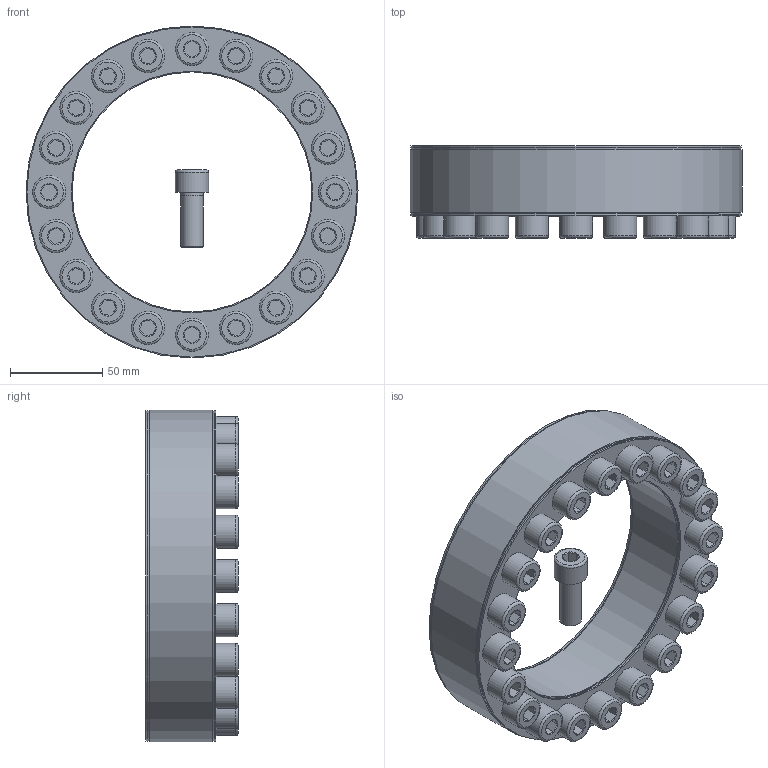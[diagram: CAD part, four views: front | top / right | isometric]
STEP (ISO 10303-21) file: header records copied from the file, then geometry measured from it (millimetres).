
FILE_DESCRIPTION( ( 'Unknown' ), '1' );
FILE_NAME( 'C:/Dokumente und Einstellungen/Sven/Desktop/homepage/cad - homepage/KBS40/KBS 40 - 130 x 180.stp', 'Unknown', ( 'Unknown' ), ( 'Unknown' ), 'XStep 1.0', 'Unknown', ' ' );
FILE_SCHEMA( ( 'automotive_design' ) );
Length unit declared in the file: millimetre
Products named in the file (22): Assem1; KBS 40 130x180; ISO 4762 M12x30; ISO 4762 M12x30-oa0; ISO 4762 M12x30-oa1; ISO 4762 M12x30-oa2; ISO 4762 M12x30-oa3; ISO 4762 M12x30-oa4; ISO 4762 M12x30-oa5; ISO 4762 M12x30-oa6; ISO 4762 M12x30-oa7; ISO 4762 M12x30-oa8; ISO 4762 M12x30-oa9; ISO 4762 M12x30-oa10; ISO 4762 M12x30-oa11; ISO 4762 M12x30-oa12; ISO 4762 M12x30-oa13; ISO 4762 M12x30-oa14; ISO 4762 M12x30-oa15; ISO 4762 M12x30-oa16; ISO 4762 M12x30-oa17; ISO 4762 M12x30-oa18
Bounding box: 179.99 x 50 x 179.99 mm (x, y, z)
Volume: 991944.3 mm3; surface area: 271128.9 mm2
Topology: 42 solids, 42 shells, 1100 faces, 2020 edges, 1164 vertices
Faces by surface type: plane 520, cone 288, cylinder 212, torus 80
Full cylindrical faces by diameter (mm): 11 x40, 12 x120, 18 x40, 131 x4, 179 x4
Entity records: 13403 total; most frequent: CARTESIAN_POINT 2832, DIRECTION 2224, ORIENTED_EDGE 1600, AXIS2_PLACEMENT_3D 972, EDGE_LOOP 840, EDGE_CURVE 800, FACE_OUTER_BOUND 694, ADVANCED_FACE 550
